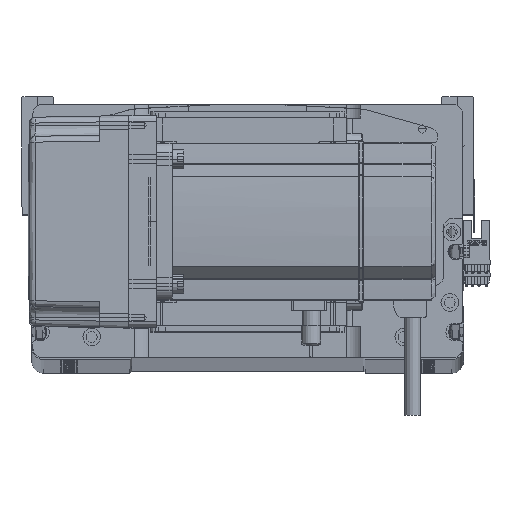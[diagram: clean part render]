
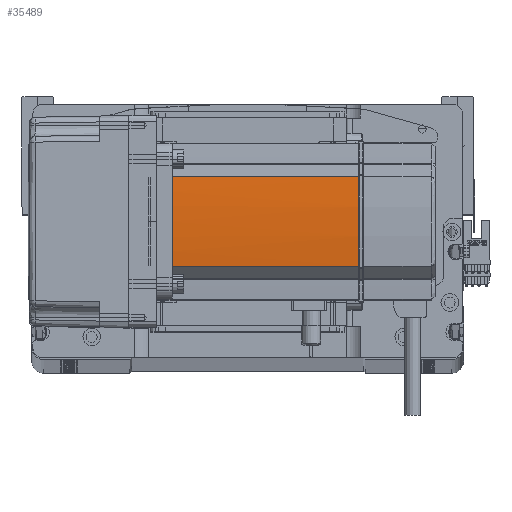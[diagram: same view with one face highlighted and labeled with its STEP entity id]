
A CAD part, top view. The second image highlights one B-rep face of the part: STEP entity #35489.
In plain terms, the highlighted cylindrical face has radius 270 mm (diameter 540 mm), a partial arc.
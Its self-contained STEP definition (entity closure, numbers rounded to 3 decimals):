
#598 = VERTEX_POINT ( 'NONE', #55536 ) ;
#2741 = VECTOR ( 'NONE', #18447, 1000. ) ;
#4108 = ORIENTED_EDGE ( 'NONE', *, *, #10113, .F. ) ;
#4352 = AXIS2_PLACEMENT_3D ( 'NONE', #15426, #24624, #15636 ) ;
#5434 = AXIS2_PLACEMENT_3D ( 'NONE', #53455, #43569, #58032 ) ;
#5514 = FACE_OUTER_BOUND ( 'NONE', #49893, .T. ) ;
#10046 = VERTEX_POINT ( 'NONE', #16018 ) ;
#10113 = EDGE_CURVE ( 'NONE', #50097, #58263, #49106, .T. ) ;
#12621 = CARTESIAN_POINT ( 'NONE',  ( 40., -0.042, 134. ) ) ;
#12866 = DIRECTION ( 'NONE',  ( 0., 0., -1. ) ) ;
#14500 = CIRCLE ( 'NONE', #44876, 270. ) ;
#14706 = ORIENTED_EDGE ( 'NONE', *, *, #31488, .T. ) ;
#15426 = CARTESIAN_POINT ( 'NONE',  ( -230., 0., 39. ) ) ;
#15578 = LINE ( 'NONE', #52466, #2741 ) ;
#15636 = DIRECTION ( 'NONE',  ( -1., 0., 0. ) ) ;
#16018 = CARTESIAN_POINT ( 'NONE',  ( 39.042, 22.724, 134. ) ) ;
#18047 = CARTESIAN_POINT ( 'NONE',  ( 40., 0.127, 134. ) ) ;
#18447 = DIRECTION ( 'NONE',  ( 0., 0., -1. ) ) ;
#19021 = EDGE_CURVE ( 'NONE', #50097, #10046, #41665, .T. ) ;
#23896 = CARTESIAN_POINT ( 'NONE',  ( -230., 0., 58. ) ) ;
#24624 = DIRECTION ( 'NONE',  ( 0., 0., -1. ) ) ;
#25809 = ORIENTED_EDGE ( 'NONE', *, *, #44479, .T. ) ;
#27170 = DIRECTION ( 'NONE',  ( 0., 0., 1. ) ) ;
#28909 = EDGE_CURVE ( 'NONE', #39127, #598, #39407, .T. ) ;
#31488 = EDGE_CURVE ( 'NONE', #46272, #58263, #15578, .T. ) ;
#34002 = CIRCLE ( 'NONE', #5434, 270. ) ;
#35489 = ADVANCED_FACE ( 'NONE', ( #5514 ), #61803, .T. ) ;
#37176 = DIRECTION ( 'NONE',  ( -1., 0., 0. ) ) ;
#38008 = ORIENTED_EDGE ( 'NONE', *, *, #19021, .T. ) ;
#38399 = ORIENTED_EDGE ( 'NONE', *, *, #28909, .F. ) ;
#38631 = DIRECTION ( 'NONE',  ( 0., 0., -1. ) ) ;
#39127 = VERTEX_POINT ( 'NONE', #54909 ) ;
#39407 = B_SPLINE_CURVE_WITH_KNOTS ( 'NONE', 3,
 ( #41738, #12621, #46164, #18047 ),
 .UNSPECIFIED., .F., .F.,
 ( 4, 4 ),
 ( 0., 1. ),
 .UNSPECIFIED. ) ;
#39710 = CARTESIAN_POINT ( 'NONE',  ( 39.042, 22.724, 39. ) ) ;
#40160 = VECTOR ( 'NONE', #27170, 1000. ) ;
#40284 = CARTESIAN_POINT ( 'NONE',  ( 39.042, -22.724, 134. ) ) ;
#41665 = LINE ( 'NONE', #51550, #40160 ) ;
#41738 = CARTESIAN_POINT ( 'NONE',  ( 40., -0.127, 134. ) ) ;
#42169 = CARTESIAN_POINT ( 'NONE',  ( 39.042, -22.724, 39. ) ) ;
#43416 = AXIS2_PLACEMENT_3D ( 'NONE', #23896, #38631, #43448 ) ;
#43448 = DIRECTION ( 'NONE',  ( -1., 0., 0. ) ) ;
#43569 = DIRECTION ( 'NONE',  ( 0., 0., -1. ) ) ;
#44479 = EDGE_CURVE ( 'NONE', #10046, #598, #14500, .T. ) ;
#44876 = AXIS2_PLACEMENT_3D ( 'NONE', #61044, #12866, #37176 ) ;
#46164 = CARTESIAN_POINT ( 'NONE',  ( 40., 0.042, 134. ) ) ;
#46272 = VERTEX_POINT ( 'NONE', #40284 ) ;
#49106 = CIRCLE ( 'NONE', #4352, 270. ) ;
#49893 = EDGE_LOOP ( 'NONE', ( #14706, #4108, #38008, #25809, #38399, #51527 ) ) ;
#50097 = VERTEX_POINT ( 'NONE', #39710 ) ;
#51527 = ORIENTED_EDGE ( 'NONE', *, *, #59343, .T. ) ;
#51550 = CARTESIAN_POINT ( 'NONE',  ( 39.042, 22.724, 58. ) ) ;
#52466 = CARTESIAN_POINT ( 'NONE',  ( 39.042, -22.724, 58. ) ) ;
#53455 = CARTESIAN_POINT ( 'NONE',  ( -230., 0., 134. ) ) ;
#54909 = CARTESIAN_POINT ( 'NONE',  ( 40., -0.127, 134. ) ) ;
#55536 = CARTESIAN_POINT ( 'NONE',  ( 40., 0.127, 134. ) ) ;
#58032 = DIRECTION ( 'NONE',  ( -1., 0., 0. ) ) ;
#58263 = VERTEX_POINT ( 'NONE', #42169 ) ;
#59343 = EDGE_CURVE ( 'NONE', #39127, #46272, #34002, .T. ) ;
#61044 = CARTESIAN_POINT ( 'NONE',  ( -230., 0., 134. ) ) ;
#61803 = CYLINDRICAL_SURFACE ( 'NONE', #43416, 270. ) ;
